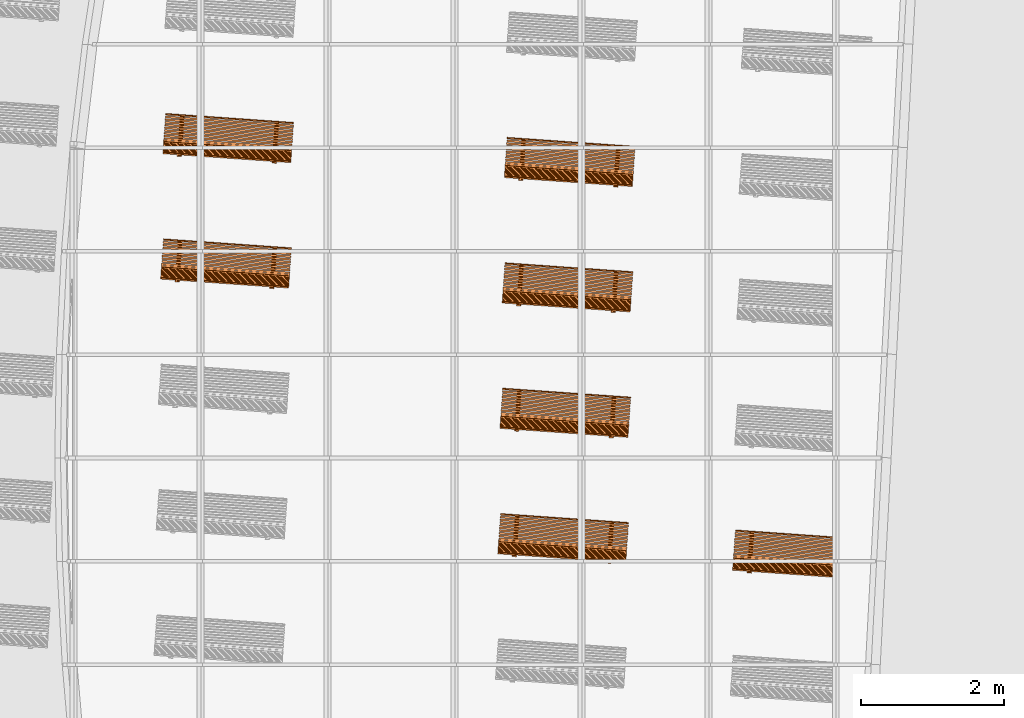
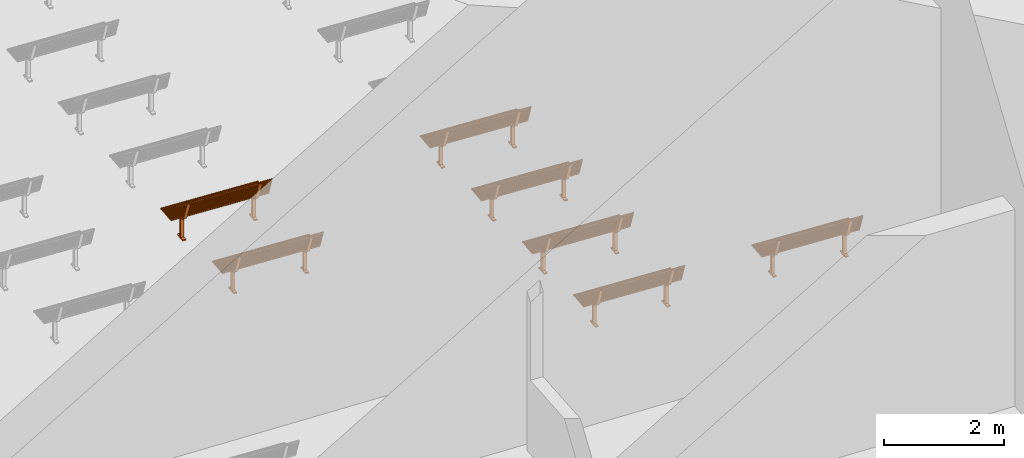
# One storey, part 77 of 82: 7 proxies.
"""IFC2X3 building model written with IfcOpenShell, lengths in millimetres."""

from ifc_helpers import new_model, entity, si_unit, converted_unit, derived_unit, direction, frame, frame_2d, origin, origin_2d_with_axis, place, context, subcontext, project, spatial, polyline, circle_curve, parameter, trimmed, segment, composite_curve, rectangle, outline, extrude, source, transform, mapped, material, material_list, element, save


model = new_model("IFC2X3")

# Units and contexts
model_context = context("Model", 3, precision=0.01, world=origin(), true_north=direction((6.12303176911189e-17, 1.0)))
body_context = subcontext(model_context, "Body", "Model", "MODEL_VIEW")
ifc_project = project(units=[si_unit("LENGTHUNIT", "METRE", prefix="MILLI"), si_unit("AREAUNIT", "SQUARE_METRE"), si_unit("VOLUMEUNIT", "CUBIC_METRE"), converted_unit("PLANEANGLEUNIT", "DEGREE", entity("IfcRatioMeasure", 0.0174532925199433), si_unit("PLANEANGLEUNIT", "RADIAN"), dimensions=[0, 0, 0, 0, 0, 0, 0]), si_unit("MASSUNIT", "GRAM", prefix="KILO"), derived_unit("MASSDENSITYUNIT", [(si_unit("MASSUNIT", "GRAM", prefix="KILO"), 1), (si_unit("LENGTHUNIT", "METRE"), -3)]), si_unit("TIMEUNIT", "SECOND"), si_unit("FREQUENCYUNIT", "HERTZ"), si_unit("THERMODYNAMICTEMPERATUREUNIT", "DEGREE_CELSIUS"), derived_unit("THERMALTRANSMITTANCEUNIT", [(si_unit("MASSUNIT", "GRAM", prefix="KILO"), 1), (si_unit("THERMODYNAMICTEMPERATUREUNIT", "KELVIN"), -1), (si_unit("TIMEUNIT", "SECOND"), -3)]), derived_unit("VOLUMETRICFLOWRATEUNIT", [(si_unit("LENGTHUNIT", "METRE"), 3), (si_unit("TIMEUNIT", "SECOND"), -1)]), si_unit("ELECTRICCURRENTUNIT", "AMPERE"), si_unit("ELECTRICVOLTAGEUNIT", "VOLT"), si_unit("POWERUNIT", "WATT"), si_unit("FORCEUNIT", "NEWTON", prefix="KILO"), si_unit("ILLUMINANCEUNIT", "LUX"), si_unit("LUMINOUSFLUXUNIT", "LUMEN"), si_unit("LUMINOUSINTENSITYUNIT", "CANDELA"), derived_unit("USERDEFINED", [(si_unit("MASSUNIT", "GRAM", prefix="KILO"), -1), (si_unit("LENGTHUNIT", "METRE"), -2), (si_unit("TIMEUNIT", "SECOND"), 3), (si_unit("LUMINOUSFLUXUNIT", "LUMEN"), 1)]), derived_unit("LINEARVELOCITYUNIT", [(si_unit("LENGTHUNIT", "METRE"), 1), (si_unit("TIMEUNIT", "SECOND"), -1)]), si_unit("PRESSUREUNIT", "PASCAL"), derived_unit("USERDEFINED", [(si_unit("LENGTHUNIT", "METRE"), -2), (si_unit("MASSUNIT", "GRAM", prefix="KILO"), 1), (si_unit("TIMEUNIT", "SECOND"), -2)])], contexts=[model_context])

# Site, building, storey
site_placement = place(None, origin())
site = spatial("IfcSite", under=ifc_project, at=site_placement, Name="表面", CompositionType="ELEMENT")
building_placement = place(site_placement, origin())
building = spatial("IfcBuilding", under=site, at=building_placement, CompositionType="ELEMENT")
storey_placement = place(building_placement, origin())
storey = spatial("IfcBuildingStorey", under=building, at=storey_placement, Name="1F", CompositionType="ELEMENT", Elevation=0.0)

# Proxies
ifc_material_1 = material(Name="木质 - 柚木")
ifc_material_2 = material(Name="金属 - 油漆面层 - 深灰色，粗面")
ifc_material_list_1 = material_list([ifc_material_1, ifc_material_2])
shared_shape_1 = source(origin(), body_context, "Body", "SweptSolid", [
    extrude(outline(composite_curve([segment(polyline([(0.797293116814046, -5.21607142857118), (12.0635827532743, -5.21607142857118)]), True, "CONTINUOUS"), segment(polyline([(12.0635827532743, -5.21607142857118), (12.0635827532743, 20.1839285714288)]), True, "CONTINUOUS"), segment(polyline([(12.0635827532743, 20.1839285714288), (0.951082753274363, 20.1839285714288)]), True, "CONTINUOUS"), segment(trimmed(circle_curve(frame_2d((0.951082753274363, 5.89642857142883), x_axis=(1.0, 0.0)), 14.2875), [parameter(89.9999999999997)], [parameter(179.999999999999)], True, "PARAMETER"), True, "CONTINUOUS"), segment(polyline([(-13.3364172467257, 5.89642857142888), (-13.3364172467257, -17.9160714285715)]), True, "CONTINUOUS"), segment(polyline([(-13.3364172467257, -17.9160714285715), (0.797293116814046, -17.9160714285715)]), True, "CONTINUOUS"), segment(polyline([(0.797293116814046, -17.9160714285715), (0.797293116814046, -5.21607142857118)]), True, "CONTINUOUS")], self_intersect=False)), frame((-900.0, -305.597293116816, 462.416071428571), z_axis=(1.0, 0.0, 0.0), x_axis=(0.0, 1.0, 0.0)), (0.0, 0.0, 1.0), 1800.0),
    extrude(outline(composite_curve([segment(polyline([(-12.6999999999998, -17.78), (0.0, -17.78)]), True, "CONTINUOUS"), segment(trimmed(circle_curve(frame_2d((0.0, -5.07999999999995), x_axis=(-0.939692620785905, -0.342020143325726)), 12.7), [parameter(69.9999999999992)], [parameter(160.0)], True, "PARAMETER"), True, "CONTINUOUS"), segment(polyline([(12.7, -5.07999999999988), (12.6999999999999, 20.3200000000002)]), True, "CONTINUOUS"), segment(polyline([(12.6999999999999, 20.3200000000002), (-12.7000000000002, 20.3200000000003)]), True, "CONTINUOUS"), segment(polyline([(-12.7000000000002, 20.3200000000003), (-12.6999999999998, -17.78)]), True, "CONTINUOUS")], self_intersect=False)), frame((-900.0, 231.374580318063, 850.885044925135), z_axis=(1.0, 0.0, 0.0), x_axis=(0.0, -0.939692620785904, 0.342020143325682)), (0.0, 0.0, 1.0), 1800.0),
    extrude(rectangle(XDim=1800.0, YDim=25.4, at=frame_2d((0.0, 1.68753899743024e-14), x_axis=(1.0, 0.0))), frame((0.0, -268.133710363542, 457.2), z_axis=(0.0, 0.0, 1.0), x_axis=(-1.0, 0.0, 0.0)), (0.0, 0.0, 1.0), 25.4),
    extrude(rectangle(XDim=1800.0, YDim=25.4, at=frame_2d((0.0, 1.68753899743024e-14), x_axis=(1.0, 0.0))), frame((0.0, -230.033710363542, 457.2), z_axis=(0.0, 0.0, 1.0), x_axis=(-1.0, 0.0, 0.0)), (0.0, 0.0, 1.0), 25.4),
    extrude(rectangle(XDim=1800.0, YDim=25.4, at=frame_2d((0.0, 1.68753899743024e-14), x_axis=(1.0, 0.0))), frame((0.0, -191.933710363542, 457.2), z_axis=(0.0, 0.0, 1.0), x_axis=(-1.0, 0.0, 0.0)), (0.0, 0.0, 1.0), 25.4),
    extrude(rectangle(XDim=1800.0, YDim=25.4, at=frame_2d((0.0, 1.68753899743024e-14), x_axis=(1.0, 0.0))), frame((0.0, -153.833710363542, 457.2), z_axis=(0.0, 0.0, 1.0), x_axis=(-1.0, 0.0, 0.0)), (0.0, 0.0, 1.0), 25.4),
    extrude(rectangle(XDim=1800.0, YDim=25.4, at=frame_2d((0.0, 1.68753899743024e-14), x_axis=(1.0, 0.0))), frame((0.0, -115.733710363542, 457.2), z_axis=(0.0, 0.0, 1.0), x_axis=(-1.0, 0.0, 0.0)), (0.0, 0.0, 1.0), 25.4),
    extrude(rectangle(XDim=1800.0, YDim=25.4, at=origin_2d_with_axis()), frame((0.0, -77.6337103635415, 457.2), z_axis=(0.0, 0.0, 1.0), x_axis=(-1.0, 0.0, 0.0)), (0.0, 0.0, 1.0), 25.4),
    extrude(rectangle(XDim=1800.0, YDim=25.4, at=origin_2d_with_axis()), frame((0.0, -39.5337103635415, 457.2), z_axis=(0.0, 0.0, 1.0), x_axis=(-1.0, 0.0, 0.0)), (0.0, 0.0, 1.0), 25.4),
    extrude(rectangle(XDim=1800.0, YDim=25.4, at=origin_2d_with_axis()), frame((0.0, -1.43371036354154, 457.2), z_axis=(0.0, 0.0, 1.0), x_axis=(-1.0, 0.0, 0.0)), (0.0, 0.0, 1.0), 25.4),
    extrude(rectangle(XDim=1800.0, YDim=25.4, at=origin_2d_with_axis()), frame((0.0, 36.6662896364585, 457.2), z_axis=(0.0, 0.0, 1.0), x_axis=(-1.0, 0.0, 0.0)), (0.0, 0.0, 1.0), 25.4),
    extrude(rectangle(XDim=25.4, YDim=25.4, at=frame_2d((3.10862446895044e-14, -1.33226762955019e-13), x_axis=(0.0, 1.0))), frame((-900.0, 137.551614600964, 593.108565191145), z_axis=(1.0, 0.0, 0.0), x_axis=(0.0, -0.939692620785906, 0.342020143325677)), (0.0, 0.0, 1.0), 1800.0),
    extrude(rectangle(XDim=25.4, YDim=25.4000000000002, at=frame_2d((-8.61533067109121e-14, 4.08562073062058e-14), x_axis=(0.0, 1.0))), frame((-900.0, 150.582582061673, 628.910854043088), z_axis=(1.0, 0.0, 0.0), x_axis=(0.0, -0.939692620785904, 0.342020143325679)), (0.0, 0.0, 1.0), 1800.0),
    extrude(rectangle(XDim=25.4000000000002, YDim=25.4, at=frame_2d((-3.19744231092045e-14, -1.15463194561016e-14), x_axis=(0.0, 1.0))), frame((-900.0, 111.489679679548, 521.503987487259), z_axis=(1.0, 0.0, 0.0), x_axis=(0.0, -0.939692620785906, 0.342020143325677)), (0.0, 0.0, 1.0), 1800.0),
    extrude(rectangle(XDim=25.4, YDim=25.3999999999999, at=frame_2d((0.0, 0.0), x_axis=(0.0, 1.0))), frame((-900.0, 124.520647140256, 557.306276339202), z_axis=(1.0, 0.0, 0.0), x_axis=(0.0, -0.939692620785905, 0.342020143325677)), (0.0, 0.0, 1.0), 1800.0),
    extrude(rectangle(XDim=25.3999999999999, YDim=25.4, at=frame_2d((-3.10862446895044e-14, -1.06581410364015e-14), x_axis=(0.0, 1.0))), frame((-900.0, 189.675484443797, 736.317720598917), z_axis=(1.0, 0.0, 0.0), x_axis=(0.0, -0.939692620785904, 0.342020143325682)), (0.0, 0.0, 1.0), 1800.0),
    extrude(rectangle(XDim=25.3999999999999, YDim=25.4000000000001, at=frame_2d((-3.10862446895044e-14, -1.33226762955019e-14), x_axis=(0.0, 1.0))), frame((-900.0, 202.706451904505, 772.12000945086), z_axis=(1.0, 0.0, 0.0), x_axis=(0.0, -0.939692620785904, 0.34202014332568)), (0.0, 0.0, 1.0), 1800.0),
    extrude(rectangle(XDim=25.4, YDim=25.3999999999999, at=frame_2d((0.0, 0.0), x_axis=(0.0, 1.0))), frame((-900.0, 163.613549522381, 664.713142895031), z_axis=(1.0, 0.0, 0.0), x_axis=(0.0, -0.939692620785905, 0.342020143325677)), (0.0, 0.0, 1.0), 1800.0),
    extrude(rectangle(XDim=25.4, YDim=25.4, at=frame_2d((-7.99360577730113e-15, -7.63833440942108e-14), x_axis=(0.0, 1.0))), frame((-900.0, 176.644516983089, 700.515431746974), z_axis=(1.0, 0.0, 0.0), x_axis=(0.0, -0.939692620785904, 0.342020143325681)), (0.0, 0.0, 1.0), 1800.0),
    extrude(rectangle(XDim=25.4, YDim=25.3999999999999, at=frame_2d((3.19744231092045e-14, 1.06581410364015e-14), x_axis=(0.0, 1.0))), frame((-900.0, 215.737419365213, 807.922298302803), z_axis=(1.0, 0.0, 0.0), x_axis=(0.0, -0.939692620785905, 0.342020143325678)), (0.0, 0.0, 1.0), 1800.0),
    extrude(rectangle(XDim=25.4000000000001, YDim=25.3999999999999, at=frame_2d((-1.33226762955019e-14, -9.76996261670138e-15), x_axis=(0.0, 1.0))), frame((-900.0, 96.4732295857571, 493.845543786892), z_axis=(1.0, 0.0, 0.0), x_axis=(0.0, -0.81915204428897, 0.573576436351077)), (0.0, 0.0, 1.0), 1800.0),
    extrude(rectangle(XDim=25.4, YDim=25.4000000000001, at=frame_2d((4.44089209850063e-15, 1.68753899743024e-14), x_axis=(1.0, 0.0))), frame((-900.0, 68.061957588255, 472.784050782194), z_axis=(1.0, 0.0, 0.0), x_axis=(0.0, -0.258819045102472, 0.965925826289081)), (0.0, 0.0, 1.0), 1800.0),
    extrude(outline(composite_curve([segment(polyline([(344.97581690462, -133.451056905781), (370.37581690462, -133.451056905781)]), True, "CONTINUOUS"), segment(polyline([(370.37581690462, -133.451056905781), (370.37581690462, 69.7489430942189)]), True, "CONTINUOUS"), segment(polyline([(370.37581690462, 69.7489430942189), (344.97581690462, 69.7489430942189)]), True, "CONTINUOUS"), segment(polyline([(344.97581690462, 69.7489430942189), (344.97581690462, -6.45105690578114)]), True, "CONTINUOUS"), segment(polyline([(344.97581690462, -6.45105690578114), (-61.4241830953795, -6.45105690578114)]), True, "CONTINUOUS"), segment(polyline([(-61.4241830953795, -6.45105690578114), (-61.4241830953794, 25.2857644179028)]), True, "CONTINUOUS"), segment(trimmed(circle_curve(frame_2d((-150.324183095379, 25.2857644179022), x_axis=(0.0, 1.0)), 88.8999999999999), [parameter(270.0)], [parameter(340.0)], True, "PARAMETER"), True, "CONTINUOUS"), segment(polyline([(-119.918592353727, 108.824438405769), (-483.896145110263, 241.301433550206)]), True, "CONTINUOUS"), segment(polyline([(-483.896145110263, 241.301433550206), (-488.239800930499, 229.367337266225)]), True, "CONTINUOUS"), segment(trimmed(circle_curve(frame_2d((-476.305704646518, 225.023681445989), x_axis=(0.0, 1.0)), 12.7), [parameter(69.9999999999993)], [parameter(160.0)], True, "PARAMETER"), True, "CONTINUOUS"), segment(polyline([(-480.649360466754, 213.089585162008), (-128.6059039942, 84.9562458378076)]), True, "CONTINUOUS"), segment(trimmed(circle_curve(frame_2d((-150.32418309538, 25.2857644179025), x_axis=(0.0, 1.0)), 63.5), [parameter(270.0)], [parameter(340.0)], True, "PARAMETER"), False, "CONTINUOUS"), segment(polyline([(-86.8241830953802, 25.2857644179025), (-86.8241830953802, -336.651056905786)]), True, "CONTINUOUS"), segment(polyline([(-86.8241830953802, -336.651056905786), (-61.4241830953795, -336.651056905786)]), True, "CONTINUOUS"), segment(polyline([(-61.4241830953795, -336.651056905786), (-61.4241830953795, -57.2510569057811)]), True, "CONTINUOUS"), segment(polyline([(-61.4241830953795, -57.2510569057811), (344.97581690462, -57.2510569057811)]), True, "CONTINUOUS"), segment(polyline([(344.97581690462, -57.2510569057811), (344.97581690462, -133.451056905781)]), True, "CONTINUOUS")], self_intersect=False)), frame((633.973659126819, 31.8510569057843, 370.37581690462), z_axis=(1.0, 0.0, 0.0), x_axis=(0.0, 0.0, -1.0)), (0.0, 0.0, 1.0), 62.8263408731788),
    extrude(outline(composite_curve([segment(polyline([(344.97581690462, -133.451056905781), (370.37581690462, -133.451056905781)]), True, "CONTINUOUS"), segment(polyline([(370.37581690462, -133.451056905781), (370.37581690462, 69.7489430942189)]), True, "CONTINUOUS"), segment(polyline([(370.37581690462, 69.7489430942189), (344.97581690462, 69.7489430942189)]), True, "CONTINUOUS"), segment(polyline([(344.97581690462, 69.7489430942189), (344.97581690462, -6.45105690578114)]), True, "CONTINUOUS"), segment(polyline([(344.97581690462, -6.45105690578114), (-61.4241830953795, -6.45105690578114)]), True, "CONTINUOUS"), segment(polyline([(-61.4241830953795, -6.45105690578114), (-61.4241830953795, 25.2857644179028)]), True, "CONTINUOUS"), segment(trimmed(circle_curve(frame_2d((-150.32418309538, 25.2857644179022), x_axis=(0.0, 1.0)), 88.9), [parameter(270.0)], [parameter(340.0)], True, "PARAMETER"), True, "CONTINUOUS"), segment(polyline([(-119.918592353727, 108.824438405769), (-483.896145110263, 241.301433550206)]), True, "CONTINUOUS"), segment(polyline([(-483.896145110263, 241.301433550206), (-488.239800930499, 229.367337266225)]), True, "CONTINUOUS"), segment(trimmed(circle_curve(frame_2d((-476.305704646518, 225.023681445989), x_axis=(0.0, 1.0)), 12.7), [parameter(69.9999999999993)], [parameter(160.0)], True, "PARAMETER"), True, "CONTINUOUS"), segment(polyline([(-480.649360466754, 213.089585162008), (-128.6059039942, 84.9562458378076)]), True, "CONTINUOUS"), segment(trimmed(circle_curve(frame_2d((-150.32418309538, 25.2857644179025), x_axis=(0.0, 1.0)), 63.5), [parameter(270.0)], [parameter(340.0)], True, "PARAMETER"), False, "CONTINUOUS"), segment(polyline([(-86.8241830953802, 25.2857644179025), (-86.8241830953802, -336.651056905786)]), True, "CONTINUOUS"), segment(polyline([(-86.8241830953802, -336.651056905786), (-61.4241830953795, -336.651056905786)]), True, "CONTINUOUS"), segment(polyline([(-61.4241830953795, -336.651056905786), (-61.4241830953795, -57.2510569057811)]), True, "CONTINUOUS"), segment(polyline([(-61.4241830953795, -57.2510569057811), (344.97581690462, -57.2510569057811)]), True, "CONTINUOUS"), segment(polyline([(344.97581690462, -57.2510569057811), (344.97581690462, -133.451056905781)]), True, "CONTINUOUS")], self_intersect=False)), frame((-696.799999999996, 31.8510569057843, 370.37581690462), z_axis=(1.0, 0.0, 0.0), x_axis=(0.0, 0.0, -1.0)), (0.0, 0.0, 1.0), 63.8916859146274),
])
proxy_1_placement = place(storey_placement, frame((-23649.8061251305, -13622.155516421, 0.0), z_axis=(0.0, 0.0, 1.0), x_axis=(-0.997564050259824, 0.0697564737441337, 0.0)))
element("IfcBuildingElementProxy", 1, at=proxy_1_placement, inside=storey, material=ifc_material_list_1, Name="长椅:1800 mm", ObjectType="1800 mm", context=body_context, shape_type="MappedRepresentation", body=[
    mapped(shared_shape_1, transform((0.0, 0.0, 0.0), scale=1.0)),
])
ifc_material_list_2 = material_list([ifc_material_1, ifc_material_2])
proxy_2_placement = place(storey_placement, frame((-23680.4950901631, -15380.3251456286, 0.0), z_axis=(0.0, 0.0, 1.0), x_axis=(-0.997564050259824, 0.0697564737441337, 0.0)))
element("IfcBuildingElementProxy", 2, at=proxy_2_placement, inside=storey, material=ifc_material_list_2, Name="长椅:1800 mm", ObjectType="1800 mm", context=body_context, shape_type="MappedRepresentation", body=[
    mapped(shared_shape_1, transform((0.0, 0.0, 0.0), scale=1.0)),
])
ifc_material_list_3 = material_list([ifc_material_1, ifc_material_2])
proxy_3_placement = place(storey_placement, frame((-23711.1840551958, -17138.4947748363, 0.0), z_axis=(0.0, 0.0, 1.0), x_axis=(-0.997564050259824, 0.0697564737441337, 0.0)))
element("IfcBuildingElementProxy", 3, at=proxy_3_placement, inside=storey, material=ifc_material_list_3, Name="长椅:1800 mm", ObjectType="1800 mm", context=body_context, shape_type="MappedRepresentation", body=[
    mapped(shared_shape_1, transform((0.0, 0.0, 0.0), scale=1.0)),
])
ifc_material_list_4 = material_list([ifc_material_1, ifc_material_2])
proxy_4_placement = place(storey_placement, frame((-23741.8730202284, -18896.664404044, 0.0), z_axis=(0.0, 0.0, 1.0), x_axis=(-0.997564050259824, 0.0697564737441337, 0.0)))
element("IfcBuildingElementProxy", 4, at=proxy_4_placement, inside=storey, material=ifc_material_list_4, Name="长椅:1800 mm", ObjectType="1800 mm", context=body_context, shape_type="MappedRepresentation", body=[
    mapped(shared_shape_1, transform((0.0, 0.0, 0.0), scale=1.0)),
])
ifc_material_list_5 = material_list([ifc_material_1, ifc_material_2])
proxy_5_placement = place(storey_placement, frame((-20449.911654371, -19126.8607673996, 0.0), z_axis=(0.0, 0.0, 1.0), x_axis=(-0.997564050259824, 0.0697564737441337, 0.0)))
element("IfcBuildingElementProxy", 5, at=proxy_5_placement, inside=storey, material=ifc_material_list_5, Name="长椅:1800 mm", ObjectType="1800 mm", context=body_context, shape_type="MappedRepresentation", body=[
    mapped(shared_shape_1, transform((0.0, 0.0, 0.0), scale=1.0)),
])
ifc_material_list_6 = material_list([ifc_material_1, ifc_material_2])
shared_shape_2 = source(origin(), body_context, "Body", "SweptSolid", [
    extrude(outline(composite_curve([segment(polyline([(5.21607142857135, -0.797293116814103), (17.9160714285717, -0.797293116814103)]), True, "CONTINUOUS"), segment(polyline([(17.9160714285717, -0.797293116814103), (17.9160714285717, 13.3364172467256)]), True, "CONTINUOUS"), segment(polyline([(17.9160714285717, 13.3364172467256), (-5.89642857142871, 13.3364172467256)]), True, "CONTINUOUS"), segment(trimmed(circle_curve(frame_2d((-5.89642857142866, -0.95108275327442), x_axis=(0.0, -1.0)), 14.2875), [parameter(180.000000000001)], [parameter(270.0)], True, "PARAMETER"), True, "CONTINUOUS"), segment(polyline([(-20.1839285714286, -0.95108275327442), (-20.1839285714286, -12.0635827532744)]), True, "CONTINUOUS"), segment(polyline([(-20.1839285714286, -12.0635827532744), (5.21607142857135, -12.0635827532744)]), True, "CONTINUOUS"), segment(polyline([(5.21607142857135, -12.0635827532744), (5.21607142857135, -0.797293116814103)]), True, "CONTINUOUS")], self_intersect=False)), frame((-900.0, 305.597293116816, 462.416071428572), z_axis=(1.0, 0.0, 0.0), x_axis=(0.0, 0.0, -1.0)), (0.0, 0.0, 1.0), 1800.0),
    extrude(outline(composite_curve([segment(polyline([(-17.7799999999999, -12.6999999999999), (20.3200000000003, -12.6999999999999)]), True, "CONTINUOUS"), segment(polyline([(20.3200000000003, -12.6999999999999), (20.3199999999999, 12.7000000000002)]), True, "CONTINUOUS"), segment(polyline([(20.3199999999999, 12.7000000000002), (-5.08000000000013, 12.7)]), True, "CONTINUOUS"), segment(trimmed(circle_curve(frame_2d((-5.08000000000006, 0.0), x_axis=(-0.342020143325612, -0.939692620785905)), 12.7), [parameter(200.0)], [parameter(290.000000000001)], True, "PARAMETER"), True, "CONTINUOUS"), segment(polyline([(-17.7800000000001, 0.0), (-17.7799999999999, -12.6999999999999)]), True, "CONTINUOUS")], self_intersect=False)), frame((-900.0, -231.374580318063, 850.885044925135), z_axis=(1.0, 0.0, 0.0), x_axis=(0.0, 0.342020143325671, -0.939692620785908)), (0.0, 0.0, 1.0), 1800.0),
    extrude(rectangle(XDim=25.4, YDim=1800.0, at=frame_2d((-1.68753899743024e-14, 0.0), x_axis=(1.0, 0.0))), frame((0.0, 268.133710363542, 457.2), z_axis=(0.0, 0.0, 1.0), x_axis=(0.0, 1.0, 0.0)), (0.0, 0.0, 1.0), 25.4),
    extrude(rectangle(XDim=25.4, YDim=1800.0, at=frame_2d((-1.68753899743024e-14, 0.0), x_axis=(1.0, 0.0))), frame((0.0, 230.033710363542, 457.2), z_axis=(0.0, 0.0, 1.0), x_axis=(0.0, 1.0, 0.0)), (0.0, 0.0, 1.0), 25.4),
    extrude(rectangle(XDim=25.4, YDim=1800.0, at=frame_2d((-1.68753899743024e-14, 0.0), x_axis=(1.0, 0.0))), frame((0.0, 191.933710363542, 457.2), z_axis=(0.0, 0.0, 1.0), x_axis=(0.0, 1.0, 0.0)), (0.0, 0.0, 1.0), 25.4),
    extrude(rectangle(XDim=25.4, YDim=1800.0, at=frame_2d((-1.68753899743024e-14, 0.0), x_axis=(1.0, 0.0))), frame((0.0, 153.833710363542, 457.2), z_axis=(0.0, 0.0, 1.0), x_axis=(0.0, 1.0, 0.0)), (0.0, 0.0, 1.0), 25.4),
    extrude(rectangle(XDim=25.4, YDim=1800.0, at=origin_2d_with_axis()), frame((0.0, 115.733710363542, 457.2), z_axis=(0.0, 0.0, 1.0), x_axis=(0.0, 1.0, 0.0)), (0.0, 0.0, 1.0), 25.4),
    extrude(rectangle(XDim=25.4, YDim=1800.0, at=origin_2d_with_axis()), frame((0.0, 77.6337103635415, 457.2), z_axis=(0.0, 0.0, 1.0), x_axis=(0.0, 1.0, 0.0)), (0.0, 0.0, 1.0), 25.4),
    extrude(rectangle(XDim=25.4, YDim=1800.0, at=origin_2d_with_axis()), frame((0.0, 39.5337103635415, 457.2), z_axis=(0.0, 0.0, 1.0), x_axis=(0.0, 1.0, 0.0)), (0.0, 0.0, 1.0), 25.4),
    extrude(rectangle(XDim=25.4, YDim=1800.0, at=origin_2d_with_axis()), frame((0.0, 1.43371036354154, 457.2), z_axis=(0.0, 0.0, 1.0), x_axis=(0.0, 1.0, 0.0)), (0.0, 0.0, 1.0), 25.4),
    extrude(rectangle(XDim=25.4, YDim=1800.0, at=origin_2d_with_axis()), frame((0.0, -36.6662896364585, 457.2), z_axis=(0.0, 0.0, 1.0), x_axis=(0.0, 1.0, 0.0)), (0.0, 0.0, 1.0), 25.4),
    extrude(rectangle(XDim=25.4, YDim=25.4, at=frame_2d((-1.33226762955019e-13, 3.01980662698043e-14), x_axis=(1.0, 0.0))), frame((-900.0, -137.551614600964, 593.108565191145), z_axis=(1.0, 0.0, 0.0), x_axis=(0.0, 0.342020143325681, -0.939692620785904)), (0.0, 0.0, 1.0), 1800.0),
    extrude(rectangle(XDim=25.4, YDim=25.4000000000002, at=frame_2d((3.99680288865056e-14, -8.61533067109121e-14), x_axis=(1.0, 0.0))), frame((-900.0, -150.582582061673, 628.910854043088), z_axis=(1.0, 0.0, 0.0), x_axis=(0.0, 0.342020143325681, -0.939692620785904)), (0.0, 0.0, 1.0), 1800.0),
    extrude(rectangle(XDim=25.4000000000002, YDim=25.4, at=frame_2d((-1.06581410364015e-14, -3.19744231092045e-14), x_axis=(1.0, 0.0))), frame((-900.0, -111.489679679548, 521.503987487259), z_axis=(1.0, 0.0, 0.0), x_axis=(0.0, 0.342020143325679, -0.939692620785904)), (0.0, 0.0, 1.0), 1800.0),
    extrude(rectangle(XDim=25.4, YDim=25.3999999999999, at=origin_2d_with_axis()), frame((-900.0, -124.520647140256, 557.306276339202), z_axis=(1.0, 0.0, 0.0), x_axis=(0.0, 0.342020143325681, -0.939692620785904)), (0.0, 0.0, 1.0), 1800.0),
    extrude(rectangle(XDim=25.3999999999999, YDim=25.4, at=frame_2d((-1.06581410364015e-14, -3.10862446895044e-14), x_axis=(1.0, 0.0))), frame((-900.0, -189.675484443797, 736.317720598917), z_axis=(1.0, 0.0, 0.0), x_axis=(0.0, 0.342020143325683, -0.939692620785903)), (0.0, 0.0, 1.0), 1800.0),
    extrude(rectangle(XDim=25.3999999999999, YDim=25.4000000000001, at=frame_2d((-1.33226762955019e-14, -3.19744231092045e-14), x_axis=(1.0, 0.0))), frame((-900.0, -202.706451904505, 772.12000945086), z_axis=(1.0, 0.0, 0.0), x_axis=(0.0, 0.342020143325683, -0.939692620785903)), (0.0, 0.0, 1.0), 1800.0),
    extrude(rectangle(XDim=25.4, YDim=25.3999999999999, at=origin_2d_with_axis()), frame((-900.0, -163.613549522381, 664.713142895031), z_axis=(1.0, 0.0, 0.0), x_axis=(0.0, 0.342020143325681, -0.939692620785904)), (0.0, 0.0, 1.0), 1800.0),
    extrude(rectangle(XDim=25.4, YDim=25.4, at=frame_2d((5.15143483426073e-14, -5.32907051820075e-14), x_axis=(1.0, 0.0))), frame((-900.0, -176.644516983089, 700.515431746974), z_axis=(1.0, 0.0, 0.0), x_axis=(0.0, 0.342020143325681, -0.939692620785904)), (0.0, 0.0, 1.0), 1800.0),
    extrude(rectangle(XDim=25.4, YDim=25.3999999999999, at=frame_2d((1.24344978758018e-14, 3.19744231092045e-14), x_axis=(1.0, 0.0))), frame((-900.0, -215.737419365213, 807.922298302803), z_axis=(1.0, 0.0, 0.0), x_axis=(0.0, 0.342020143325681, -0.939692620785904)), (0.0, 0.0, 1.0), 1800.0),
    extrude(rectangle(XDim=25.4000000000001, YDim=25.3999999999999, at=frame_2d((-9.76996261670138e-15, -1.4210854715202e-14), x_axis=(1.0, 0.0))), frame((-900.0, -96.4732295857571, 493.845543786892), z_axis=(1.0, 0.0, 0.0), x_axis=(0.0, 0.573576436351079, -0.819152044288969)), (0.0, 0.0, 1.0), 1800.0),
    extrude(rectangle(XDim=25.4, YDim=25.4000000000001, at=frame_2d((5.24025267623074e-14, -1.25233157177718e-13), x_axis=(0.0, 1.0))), frame((-900.0, -68.061957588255, 472.784050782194), z_axis=(1.0, 0.0, 0.0), x_axis=(0.0, 0.965925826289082, -0.258819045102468)), (0.0, 0.0, 1.0), 1800.0),
    extrude(outline(composite_curve([segment(polyline([(-133.451056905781, -344.97581690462), (-133.451056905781, -370.37581690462)]), True, "CONTINUOUS"), segment(polyline([(-133.451056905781, -370.37581690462), (69.7489430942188, -370.37581690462)]), True, "CONTINUOUS"), segment(polyline([(69.7489430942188, -370.37581690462), (69.7489430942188, -344.97581690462)]), True, "CONTINUOUS"), segment(polyline([(69.7489430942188, -344.97581690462), (-6.45105690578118, -344.97581690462)]), True, "CONTINUOUS"), segment(polyline([(-6.45105690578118, -344.97581690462), (-6.45105690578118, 61.4241830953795)]), True, "CONTINUOUS"), segment(polyline([(-6.45105690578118, 61.4241830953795), (25.2857644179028, 61.4241830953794)]), True, "CONTINUOUS"), segment(trimmed(circle_curve(frame_2d((25.2857644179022, 150.324183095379), x_axis=(1.0, 0.0)), 88.8999999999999), [parameter(270.0)], [parameter(340.0)], True, "PARAMETER"), True, "CONTINUOUS"), segment(polyline([(108.824438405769, 119.918592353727), (241.301433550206, 483.896145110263)]), True, "CONTINUOUS"), segment(polyline([(241.301433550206, 483.896145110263), (229.367337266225, 488.239800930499)]), True, "CONTINUOUS"), segment(trimmed(circle_curve(frame_2d((225.023681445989, 476.305704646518), x_axis=(1.0, 0.0)), 12.7), [parameter(69.9999999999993)], [parameter(160.0)], True, "PARAMETER"), True, "CONTINUOUS"), segment(polyline([(213.089585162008, 480.649360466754), (84.9562458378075, 128.6059039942)]), True, "CONTINUOUS"), segment(trimmed(circle_curve(frame_2d((25.2857644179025, 150.32418309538), x_axis=(1.0, 0.0)), 63.5), [parameter(270.0)], [parameter(340.0)], True, "PARAMETER"), False, "CONTINUOUS"), segment(polyline([(25.2857644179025, 86.8241830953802), (-336.651056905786, 86.8241830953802)]), True, "CONTINUOUS"), segment(polyline([(-336.651056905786, 86.8241830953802), (-336.651056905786, 61.4241830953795)]), True, "CONTINUOUS"), segment(polyline([(-336.651056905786, 61.4241830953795), (-57.2510569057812, 61.4241830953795)]), True, "CONTINUOUS"), segment(polyline([(-57.2510569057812, 61.4241830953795), (-57.2510569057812, -344.97581690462)]), True, "CONTINUOUS"), segment(polyline([(-57.2510569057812, -344.97581690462), (-133.451056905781, -344.97581690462)]), True, "CONTINUOUS")], self_intersect=False)), frame((633.973659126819, -31.8510569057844, 370.37581690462), z_axis=(-1.0, 0.0, 0.0), x_axis=(0.0, -1.0, 0.0)), (0.0, 0.0, -1.0), 62.8263408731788),
    extrude(outline(composite_curve([segment(polyline([(-133.451056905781, -344.97581690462), (-133.451056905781, -370.37581690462)]), True, "CONTINUOUS"), segment(polyline([(-133.451056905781, -370.37581690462), (69.7489430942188, -370.37581690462)]), True, "CONTINUOUS"), segment(polyline([(69.7489430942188, -370.37581690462), (69.7489430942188, -344.97581690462)]), True, "CONTINUOUS"), segment(polyline([(69.7489430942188, -344.97581690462), (-6.45105690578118, -344.97581690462)]), True, "CONTINUOUS"), segment(polyline([(-6.45105690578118, -344.97581690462), (-6.45105690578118, 61.4241830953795)]), True, "CONTINUOUS"), segment(polyline([(-6.45105690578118, 61.4241830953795), (25.2857644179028, 61.4241830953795)]), True, "CONTINUOUS"), segment(trimmed(circle_curve(frame_2d((25.2857644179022, 150.32418309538), x_axis=(1.0, 0.0)), 88.9), [parameter(270.0)], [parameter(340.0)], True, "PARAMETER"), True, "CONTINUOUS"), segment(polyline([(108.824438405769, 119.918592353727), (241.301433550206, 483.896145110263)]), True, "CONTINUOUS"), segment(polyline([(241.301433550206, 483.896145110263), (229.367337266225, 488.239800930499)]), True, "CONTINUOUS"), segment(trimmed(circle_curve(frame_2d((225.023681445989, 476.305704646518), x_axis=(1.0, 0.0)), 12.7), [parameter(69.9999999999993)], [parameter(160.0)], True, "PARAMETER"), True, "CONTINUOUS"), segment(polyline([(213.089585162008, 480.649360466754), (84.9562458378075, 128.6059039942)]), True, "CONTINUOUS"), segment(trimmed(circle_curve(frame_2d((25.2857644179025, 150.32418309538), x_axis=(1.0, 0.0)), 63.5), [parameter(270.0)], [parameter(340.0)], True, "PARAMETER"), False, "CONTINUOUS"), segment(polyline([(25.2857644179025, 86.8241830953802), (-336.651056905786, 86.8241830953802)]), True, "CONTINUOUS"), segment(polyline([(-336.651056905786, 86.8241830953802), (-336.651056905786, 61.4241830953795)]), True, "CONTINUOUS"), segment(polyline([(-336.651056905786, 61.4241830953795), (-57.2510569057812, 61.4241830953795)]), True, "CONTINUOUS"), segment(polyline([(-57.2510569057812, 61.4241830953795), (-57.2510569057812, -344.97581690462)]), True, "CONTINUOUS"), segment(polyline([(-57.2510569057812, -344.97581690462), (-133.451056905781, -344.97581690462)]), True, "CONTINUOUS")], self_intersect=False)), frame((-696.799999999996, -31.8510569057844, 370.37581690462), z_axis=(-1.0, 0.0, 0.0), x_axis=(0.0, -1.0, 0.0)), (0.0, 0.0, -1.0), 63.8916859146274),
])
proxy_6_placement = place(storey_placement, frame((-28438.1135663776, -13287.3244424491, 0.0), z_axis=(0.0, 0.0, 1.0), x_axis=(0.997564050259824, -0.0697564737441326, 0.0)))
element("IfcBuildingElementProxy", 6, at=proxy_6_placement, inside=storey, material=ifc_material_list_6, Name="长椅:1800 mm", ObjectType="1800 mm", context=body_context, shape_type="MappedRepresentation", body=[
    mapped(shared_shape_2, transform((0.0, 0.0, 0.0), scale=1.0)),
])
ifc_material_list_7 = material_list([ifc_material_1, ifc_material_2])
proxy_7_placement = place(storey_placement, frame((-28468.8025314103, -15045.4940716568, 0.0), z_axis=(0.0, 0.0, 1.0), x_axis=(0.997564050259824, -0.0697564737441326, 0.0)))
element("IfcBuildingElementProxy", 7, at=proxy_7_placement, inside=storey, material=ifc_material_list_7, Name="长椅:1800 mm", ObjectType="1800 mm", context=body_context, shape_type="MappedRepresentation", body=[
    mapped(shared_shape_2, transform((0.0, 0.0, 0.0), scale=1.0)),
])

save(model, "model.ifc")
